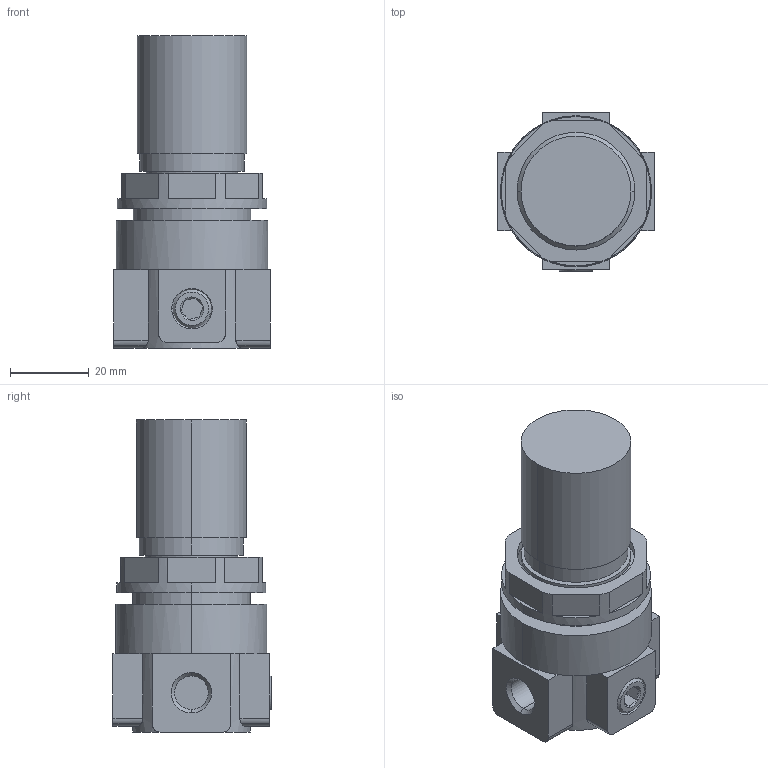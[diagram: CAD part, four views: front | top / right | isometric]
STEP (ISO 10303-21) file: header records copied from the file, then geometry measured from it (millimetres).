
FILE_DESCRIPTION((''),'2;1');
FILE_NAME('I:\DOC-EDP\Lib-3d\FRL\17109A_.stp','2003-06-16T14:51:14',('maffial1'),(''),'Autodesk Inventor 7','Autodesk Inventor 7','');
FILE_SCHEMA(('AUTOMOTIVE_DESIGN { 1 0 10303 214 1 1 1 1 }'));
Length unit declared in the file: millimetre
Products named in the file (4): 17109A_; 17109A_(1); RK_1701_020; RS_1701_12
Assembly tree (3 placements, depth 2):
  17109A_
    17109A_(1)
    RK_1701_020
    RS_1701_12
Bounding box: 40 x 40.3 x 79.5 mm (x, y, z)
Volume: 68561.8 mm3; surface area: 15746.8 mm2
Topology: 3 solids, 3 shells, 140 faces, 342 edges, 219 vertices
Faces by surface type: plane 64, cylinder 40, bspline 20, cone 12, torus 4
Entity records: 4539 total; most frequent: CARTESIAN_POINT 1152, DIRECTION 703, ORIENTED_EDGE 684, EDGE_CURVE 342, AXIS2_PLACEMENT_3D 262, VERTEX_POINT 219, VECTOR 179, LINE 179
